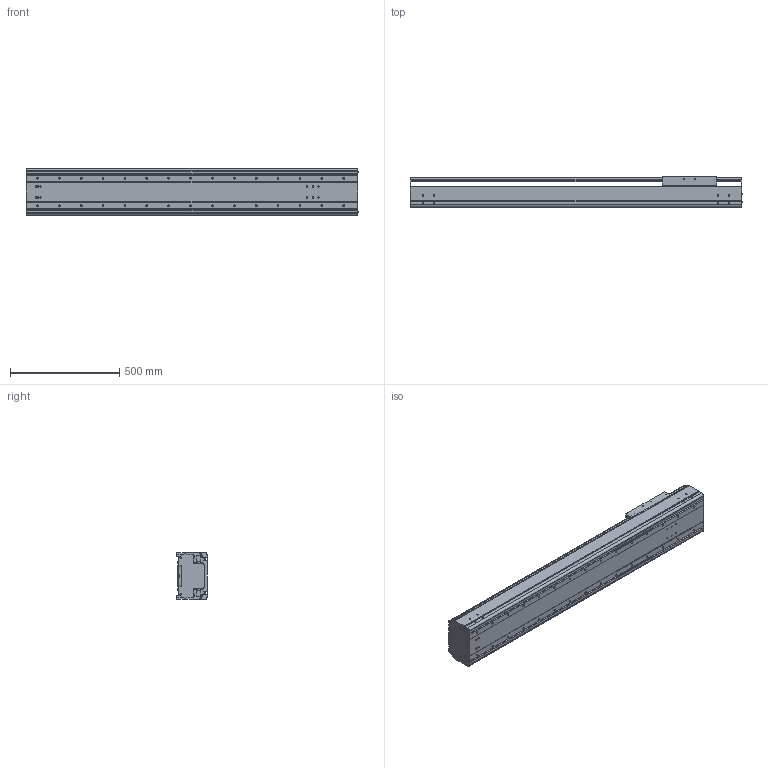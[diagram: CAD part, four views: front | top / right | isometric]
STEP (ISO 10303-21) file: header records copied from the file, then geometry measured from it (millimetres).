
FILE_DESCRIPTION((''),'2;1');
FILE_NAME('BE60G-ST-M_N-B0_IGS_PRT','2017-06-18T',(' '),(''),'PRO/ENGINEER BY PARAMETRIC TECHNOLOGY CORPORATION, 2015030','PRO/ENGINEER BY PARAMETRIC TECHNOLOGY CORPORATION, 2015030','');
FILE_SCHEMA(('CONFIG_CONTROL_DESIGN'));
Length unit declared in the file: millimetre
Products named in the file (1): BE60G-ST-M_N-B0_IGS_PRT
Bounding box: 1517.4 x 140 x 214 mm (x, y, z)
Volume: 12065182.9 mm3; surface area: 3220098.3 mm2
Topology: 2 solids, 148 shells, 1602 faces, 4482 edges, 2945 vertices
Faces by surface type: cylinder 824, plane 618, cone 112, sphere 24, torus 24
Entity records: 53580 total; most frequent: CARTESIAN_POINT 12184, DIRECTION 8690, ORIENTED_EDGE 8168, EDGE_CURVE 4372, AXIS2_PLACEMENT_3D 3241, VERTEX_POINT 2944, VECTOR 2208, LINE 2208
